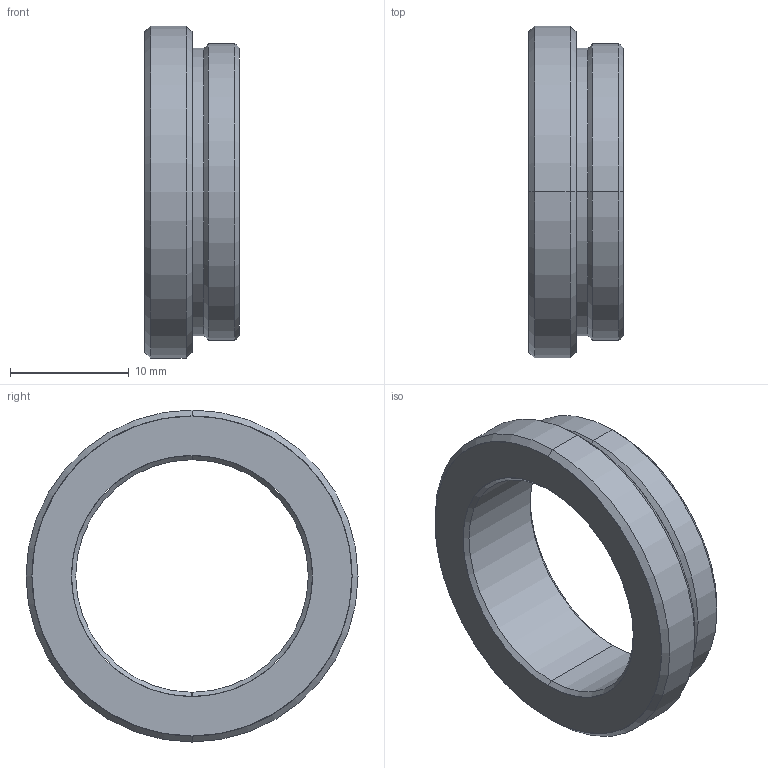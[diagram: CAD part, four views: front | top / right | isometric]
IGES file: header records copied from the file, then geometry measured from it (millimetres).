
Start section: SolidWorks IGES file using analytic representation for surfaces
Global section: file name: C:\Users\tsuji_vst\Documents\【作業フォルダ】\【3D】\00 VST\VS-MS\AD-MS1N-OL.IGS; native system: SolidWorks 2018; preprocessor: SolidWorks 2018; author: tsuji_vst; date: 181107.174907; units: millimetre
Bounding box: 8 x 28 x 28 mm (x, y, z)
Surface area: 1729.6 mm2 (no closed solid volume)
Topology: 0 solids, 0 shells, 23 faces, 272 edges, 272 vertices
Faces by surface type: revolution 20, bspline 3
